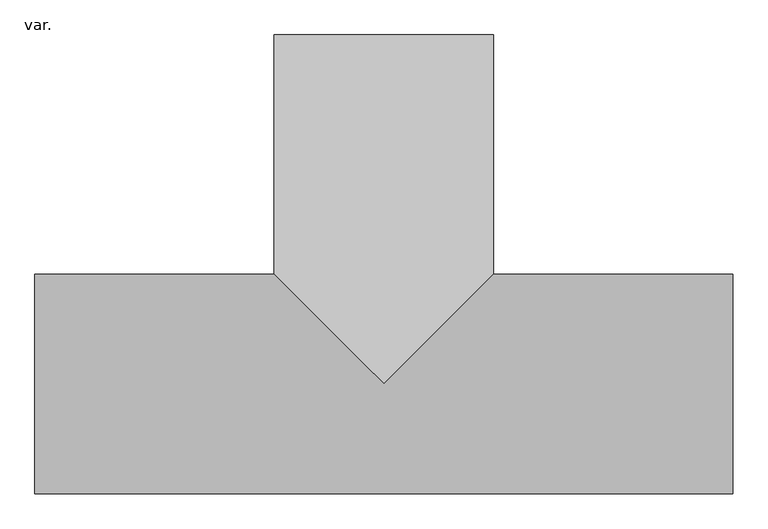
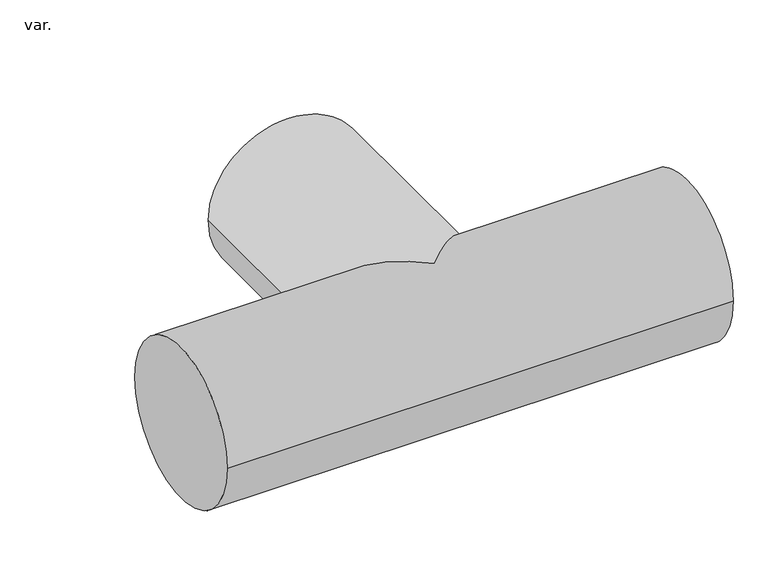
"""IFC4 building model written with IfcOpenShell, lengths in millimetres: pipe fitting geometry, PavcoWavin_UnionesDeTubería_NoUsarCañuelaTee : var.."""

from ifc_helpers import new_model, si_unit, frame, origin, place, context, project, spatial, circle_curve, ellipse_curve, source, transform, mapped, element, save
from ifc_brep_helpers import plane_surface, cylinder_surface, advanced_brep


def var_46a39f45(model_context):
    return source(origin(), model_context, "Body", "AdvancedBrep", [
        advanced_brep(
        [(-569.2453589, -157.5, 0.0), (-569.2453589, 157.5, 0.0), (430.7546411, -157.5, 0.0), (430.7546411, 157.5, 0.0), (88.2546411, 157.5, 0.0), (-69.2453589, 0.0, 157.5), (-226.7453589, 157.5, 0.0), (-69.2453589, 0.0, -157.5), (88.2546411, 500.0, 0.0), (-226.7453589, 500.0, 0.0)],
        [
            (0, 1, circle_curve(frame((-569.2453589, 0.0, 0.0), z_axis=(-1.0, 0.0, 0.0), x_axis=(0.0, 1.0, 0.0)), 157.5)),
            (1, 0, circle_curve(frame((-569.2453589, 0.0, 0.0), z_axis=(-1.0, 0.0, 0.0), x_axis=(0.0, 1.0, 0.0)), 157.5)),
            (2, 3, circle_curve(frame((430.7546411, 0.0, 0.0), z_axis=(1.0, 0.0, 0.0), x_axis=(0.0, 1.0, 0.0)), 157.5)),
            (3, 2, circle_curve(frame((430.7546411, 0.0, 0.0), z_axis=(1.0, 0.0, 0.0), x_axis=(0.0, 1.0, 0.0)), 157.5)),
            (0, 2),
            (3, 4),
            (4, 5, ellipse_curve(frame((-69.2453589, 0.0, 0.0), z_axis=(0.7071067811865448, -0.7071067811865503, 0.0), x_axis=(-0.7071067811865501, -0.7071067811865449, 0.0)), 222.7386361, 157.5)),
            (5, 6, ellipse_curve(frame((-69.2453589, 0.0, 0.0), z_axis=(-0.7071067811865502, -0.7071067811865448, 0.0), x_axis=(-0.7071067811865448, 0.7071067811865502, 0.0)), 222.7386361, 157.5)),
            (6, 1),
            (6, 7, ellipse_curve(frame((-69.2453589, 0.0, 0.0), z_axis=(-0.7071067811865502, -0.7071067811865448, 0.0), x_axis=(-0.7071067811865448, 0.7071067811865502, 0.0)), 222.7386361, 157.5)),
            (7, 4, ellipse_curve(frame((-69.2453589, 0.0, 0.0), z_axis=(0.7071067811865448, -0.7071067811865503, 0.0), x_axis=(-0.7071067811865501, -0.7071067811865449, 0.0)), 222.7386361, 157.5)),
            (8, 9, circle_curve(frame((-69.2453589, 500.0, 0.0), z_axis=(0.0, 1.0, 0.0), x_axis=(-1.0, 0.0, 0.0)), 157.5)),
            (9, 8, circle_curve(frame((-69.2453589, 500.0, 0.0), z_axis=(0.0, 1.0, 0.0), x_axis=(-1.0, 0.0, 0.0)), 157.5)),
            (9, 6),
            (4, 8),
        ],
        [
            plane_surface(frame((-569.2453589, 0.0, 0.0), z_axis=(-1.0, 0.0, 0.0), x_axis=(0.0, 0.0, 1.0))),
            plane_surface(frame((430.7546411, 0.0, 0.0), z_axis=(1.0, 0.0, 0.0), x_axis=(0.0, 0.0, 1.0))),
            cylinder_surface(frame((-569.2453589, 0.0, 0.0), z_axis=(-1.0, 0.0, 0.0), x_axis=(0.0, 1.0, 0.0)), 157.5),
            plane_surface(frame((-69.2453589, 500.0, 0.0), z_axis=(0.0, 1.0, 0.0), x_axis=(0.0, 0.0, 1.0))),
            cylinder_surface(frame((-69.2453589, 0.0, 0.0), z_axis=(0.0, -1.0, 0.0), x_axis=(-1.0, 0.0, 0.0)), 157.5),
        ],
        [
            (0, [[1, 2]]),
            (1, [[3, 4]]),
            (2, [[-1, 5, -4, 6, 7, 8, 9]]),
            (2, [[-2, -9, 10, 11, -6, -3, -5]]),
            (3, [[12, 13]]),
            (4, [[-13, 14, -8, -7, 15]]),
            (4, [[-12, -15, -11, -10, -14]]),
        ],
    ),
    ])


if __name__ == "__main__":
    model = new_model("IFC4")
    model_context = context("Model", 3, world=origin())
    ifc_project = project(units=[si_unit("LENGTHUNIT", "METRE", prefix="MILLI")], contexts=[model_context])
    site = spatial("IfcSite", under=ifc_project)
    building = spatial("IfcBuilding", under=site)
    placement = place(None, origin())
    var_shape = var_46a39f45(model_context)
    element("IfcPipeFitting", 1, ObjectType="PavcoWavin_UnionesDeTubería_NoUsarCañuelaTee : var.", at=placement, inside=building, context=model_context, shape_type="MappedRepresentation", body=[
        mapped(var_shape, transform((0.0, 0.0, 0.0), x_axis=(1.0, 0.0, 0.0), y_axis=(0.0, 1.0, 0.0), z_axis=(0.0, 0.0, 1.0))),
    ])
    save(model, "model.ifc")
